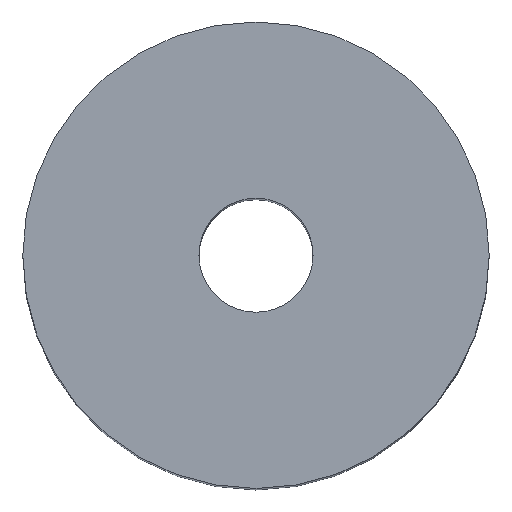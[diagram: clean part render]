
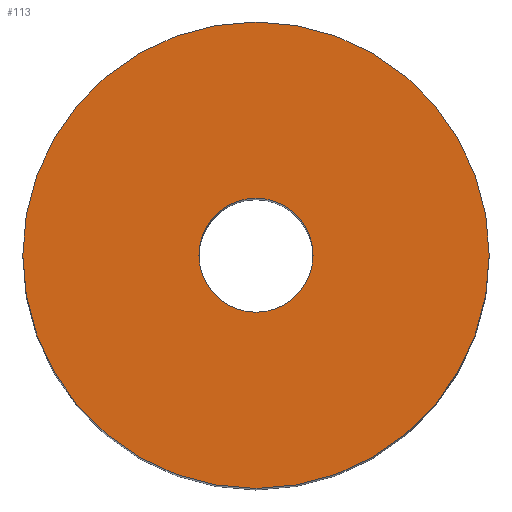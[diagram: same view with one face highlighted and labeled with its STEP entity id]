
A CAD part, top view. The second image highlights one B-rep face of the part: STEP entity #113.
In plain terms, the highlighted planar face has unit normal (0, 0, 1).
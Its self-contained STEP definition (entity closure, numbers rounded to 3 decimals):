
#113=ADVANCED_FACE('',(#121,#122),#119,.T.);
#119=PLANE('',#190);
#121=FACE_BOUND('',#125,.T.);
#122=FACE_BOUND('',#126,.T.);
#125=EDGE_LOOP('',(#133,#134));
#126=EDGE_LOOP('',(#135,#136));
#133=ORIENTED_EDGE('',*,*,#165,.T.);
#134=ORIENTED_EDGE('',*,*,#166,.T.);
#135=ORIENTED_EDGE('',*,*,#167,.F.);
#136=ORIENTED_EDGE('',*,*,#168,.F.);
#157=VERTEX_POINT('',#236);
#158=VERTEX_POINT('',#237);
#159=VERTEX_POINT('',#240);
#160=VERTEX_POINT('',#241);
#165=EDGE_CURVE('',#157,#158,#177,.T.);
#166=EDGE_CURVE('',#158,#157,#178,.T.);
#167=EDGE_CURVE('',#159,#160,#179,.T.);
#168=EDGE_CURVE('',#160,#159,#180,.T.);
#177=CIRCLE('',#186,45.);
#178=CIRCLE('',#187,45.);
#179=CIRCLE('',#188,11.);
#180=CIRCLE('',#189,11.);
#186=AXIS2_PLACEMENT_3D('',#235,#202,#203);
#187=AXIS2_PLACEMENT_3D('',#238,#204,#205);
#188=AXIS2_PLACEMENT_3D('',#239,#206,#207);
#189=AXIS2_PLACEMENT_3D('',#242,#208,#209);
#190=AXIS2_PLACEMENT_3D('',#243,#210,#211);
#202=DIRECTION('',(0.,0.,1.));
#203=DIRECTION('',(0.,1.,0.));
#204=DIRECTION('',(0.,0.,1.));
#205=DIRECTION('',(0.,-1.,0.));
#206=DIRECTION('',(0.,0.,1.));
#207=DIRECTION('',(0.,-1.,0.));
#208=DIRECTION('',(0.,0.,1.));
#209=DIRECTION('',(0.,1.,0.));
#210=DIRECTION('',(0.,0.,1.));
#211=DIRECTION('',(0.,1.,0.));
#235=CARTESIAN_POINT('',(0.,0.,170.));
#236=CARTESIAN_POINT('',(-45.,0.,170.));
#237=CARTESIAN_POINT('',(45.,0.,170.));
#238=CARTESIAN_POINT('',(0.,0.,170.));
#239=CARTESIAN_POINT('',(0.,0.,170.));
#240=CARTESIAN_POINT('',(11.,0.,170.));
#241=CARTESIAN_POINT('',(-11.,0.,170.));
#242=CARTESIAN_POINT('',(0.,0.,170.));
#243=CARTESIAN_POINT('',(0.,0.,170.));
